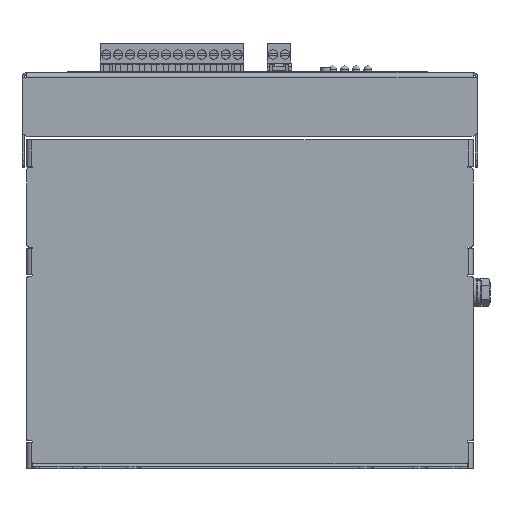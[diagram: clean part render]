
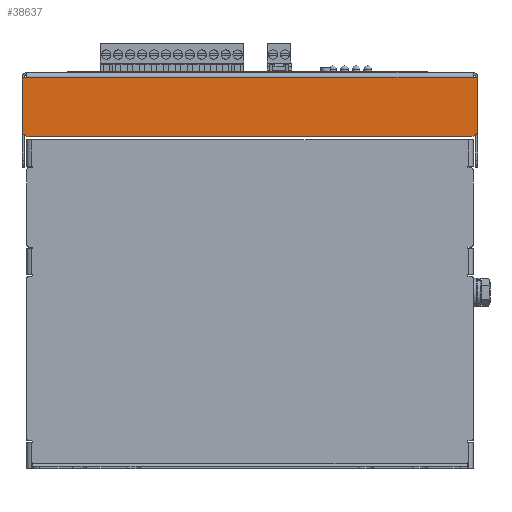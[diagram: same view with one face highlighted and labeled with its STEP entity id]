
A CAD part, left-side view. The second image highlights one B-rep face of the part: STEP entity #38637.
In plain terms, the highlighted planar face has unit normal (-1, 0, 0).
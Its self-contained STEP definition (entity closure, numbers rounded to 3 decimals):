
#38637=ADVANCED_FACE('',(#92943),#92945,.T.);
#92943=FACE_BOUND('',#92944,.T.);
#92944=EDGE_LOOP('',(#140549,#140550,#140551,#140552,#140553,#140554,#140555,#140556,
#140557,#140558));
#92945=PLANE('',#92946);
#92946=AXIS2_PLACEMENT_3D('',#92947,#92948,#92949);
#92947=CARTESIAN_POINT('',(-50.,0.,122.1));
#92948=DIRECTION('',(-1.,0.,0.));
#92949=DIRECTION('',(0.,-1.,0.));
#140549=ORIENTED_EDGE('',*,*,#173735,.F.);
#140550=ORIENTED_EDGE('',*,*,#173749,.T.);
#140551=ORIENTED_EDGE('',*,*,#173748,.F.);
#140552=ORIENTED_EDGE('',*,*,#173746,.T.);
#140553=ORIENTED_EDGE('',*,*,#173744,.F.);
#140554=ORIENTED_EDGE('',*,*,#173742,.T.);
#140555=ORIENTED_EDGE('',*,*,#173750,.T.);
#140556=ORIENTED_EDGE('',*,*,#173740,.T.);
#140557=ORIENTED_EDGE('',*,*,#173739,.F.);
#140558=ORIENTED_EDGE('',*,*,#173736,.T.);
#173735=EDGE_CURVE('',#202840,#202838,#202842,.F.);
#173736=EDGE_CURVE('',#202843,#202838,#202844,.T.);
#173739=EDGE_CURVE('',#202843,#202846,#202848,.F.);
#173740=EDGE_CURVE('',#202737,#202846,#202849,.T.);
#173742=EDGE_CURVE('',#202850,#202742,#202852,.T.);
#173744=EDGE_CURVE('',#202850,#202853,#202855,.F.);
#173746=EDGE_CURVE('',#202856,#202853,#202858,.T.);
#173748=EDGE_CURVE('',#202856,#202859,#202861,.F.);
#173749=EDGE_CURVE('',#202840,#202859,#202862,.T.);
#173750=EDGE_CURVE('',#202742,#202737,#202863,.T.);
#202737=VERTEX_POINT('',#267852);
#202742=VERTEX_POINT('',#267864);
#202838=VERTEX_POINT('',#268106);
#202840=VERTEX_POINT('',#268110);
#202842=CIRCLE('',#268114,3.);
#202843=VERTEX_POINT('',#268118);
#202844=LINE('',#268119,#268120);
#202846=VERTEX_POINT('',#268125);
#202848=CIRCLE('',#268129,1.);
#202849=LINE('',#268133,#268134);
#202850=VERTEX_POINT('',#268136);
#202852=LINE('',#268140,#268141);
#202853=VERTEX_POINT('',#268143);
#202855=CIRCLE('',#268147,1.);
#202856=VERTEX_POINT('',#268151);
#202858=LINE('',#268155,#268156);
#202859=VERTEX_POINT('',#268158);
#202861=CIRCLE('',#268162,3.);
#202862=LINE('',#268166,#268167);
#202863=LINE('',#268169,#268170);
#267852=CARTESIAN_POINT('',(-50.,95.,120.1));
#267864=CARTESIAN_POINT('',(-50.,-95.,120.1));
#268106=CARTESIAN_POINT('',(-50.,97.,97.8));
#268110=CARTESIAN_POINT('',(-50.,94.,94.8));
#268114=AXIS2_PLACEMENT_3D('',#268115,#268116,#268117);
#268115=CARTESIAN_POINT('',(-50.,94.,97.8));
#268116=DIRECTION('',(-1.,0.,0.));
#268117=DIRECTION('',(0.,1.,0.));
#268118=CARTESIAN_POINT('',(-50.,97.,119.1));
#268119=CARTESIAN_POINT('',(-50.,97.,119.1));
#268120=VECTOR('',#268121,1.);
#268121=DIRECTION('',(0.,0.,-1.));
#268125=CARTESIAN_POINT('',(-50.,96.,120.1));
#268129=AXIS2_PLACEMENT_3D('',#268130,#268131,#268132);
#268130=CARTESIAN_POINT('',(-50.,96.,119.1));
#268131=DIRECTION('',(-1.,0.,0.));
#268132=DIRECTION('',(0.,0.,1.));
#268133=CARTESIAN_POINT('',(-50.,95.,120.1));
#268134=VECTOR('',#268135,1.);
#268135=DIRECTION('',(0.,1.,0.));
#268136=CARTESIAN_POINT('',(-50.,-96.,120.1));
#268140=CARTESIAN_POINT('',(-50.,-96.,120.1));
#268141=VECTOR('',#268142,1.);
#268142=DIRECTION('',(0.,1.,0.));
#268143=CARTESIAN_POINT('',(-50.,-97.,119.1));
#268147=AXIS2_PLACEMENT_3D('',#268148,#268149,#268150);
#268148=CARTESIAN_POINT('',(-50.,-96.,119.1));
#268149=DIRECTION('',(-1.,0.,0.));
#268150=DIRECTION('',(0.,-1.,0.));
#268151=CARTESIAN_POINT('',(-50.,-97.,97.8));
#268155=CARTESIAN_POINT('',(-50.,-97.,97.8));
#268156=VECTOR('',#268157,1.);
#268157=DIRECTION('',(0.,0.,1.));
#268158=CARTESIAN_POINT('',(-50.,-94.,94.8));
#268162=AXIS2_PLACEMENT_3D('',#268163,#268164,#268165);
#268163=CARTESIAN_POINT('',(-50.,-94.,97.8));
#268164=DIRECTION('',(-1.,0.,0.));
#268165=DIRECTION('',(0.,0.,-1.));
#268166=CARTESIAN_POINT('',(-50.,94.,94.8));
#268167=VECTOR('',#268168,1.);
#268168=DIRECTION('',(0.,-1.,0.));
#268169=CARTESIAN_POINT('',(-50.,-95.,120.1));
#268170=VECTOR('',#268171,1.);
#268171=DIRECTION('',(0.,1.,0.));
